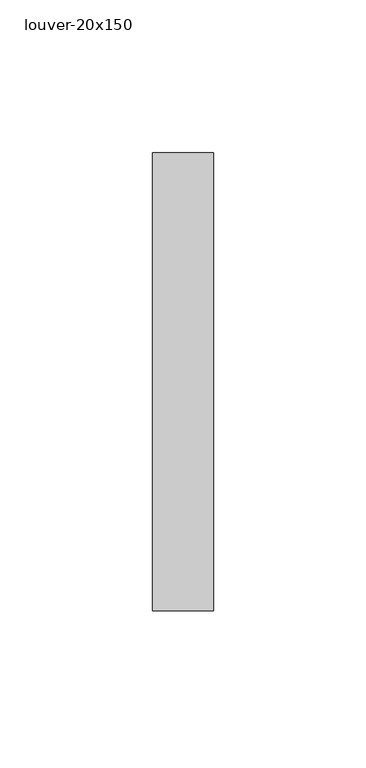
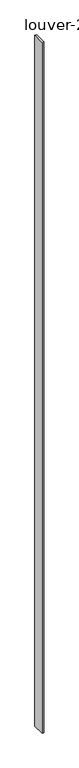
"""IFC4 building model written with IfcOpenShell, lengths in millimetres: member geometry, 長方形マリオン : louver-20x150."""

from ifc_helpers import new_model, si_unit, frame, origin, place, context, project, spatial, polyline, outline, extrude, source, transform, mapped, element, save


def louver_20x150_8942ec77(model_context):
    return source(origin(), model_context, "Body", "SweptSolid", [
        extrude(outline(polyline([(10.0, 75.0), (10.0, -75.0), (-10.0, -75.0), (-10.0, 75.0), (10.0, 75.0)])), frame((0.0, 0.0, -8902.0), z_axis=(0.0, 0.0, 1.0), x_axis=(1.0, 0.0, 0.0)), (0.0, 0.0, 1.0), 8902.0),
    ])


if __name__ == "__main__":
    model = new_model("IFC4")
    model_context = context("Model", 3, world=origin())
    ifc_project = project(units=[si_unit("LENGTHUNIT", "METRE", prefix="MILLI")], contexts=[model_context])
    site = spatial("IfcSite", under=ifc_project)
    building = spatial("IfcBuilding", under=site)
    placement = place(None, origin())
    louver_20x150_shape = louver_20x150_8942ec77(model_context)
    element("IfcMember", 1, ObjectType="長方形マリオン : louver-20x150", at=placement, inside=building, context=model_context, shape_type="MappedRepresentation", body=[
        mapped(louver_20x150_shape, transform((0.0, 0.0, 0.0), x_axis=(1.0, 0.0, 0.0), y_axis=(0.0, 1.0, 0.0), z_axis=(0.0, 0.0, 1.0))),
    ])
    save(model, "model.ifc")
